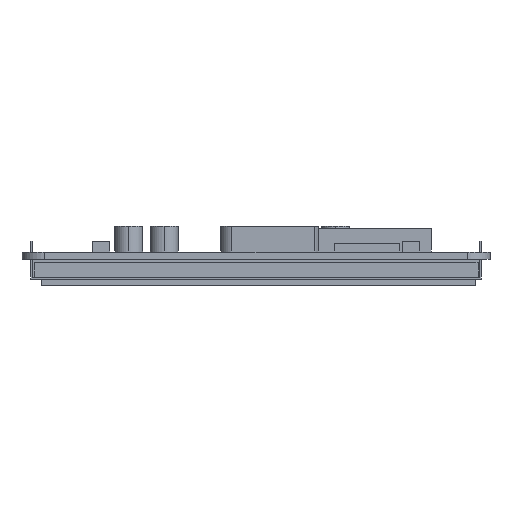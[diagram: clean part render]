
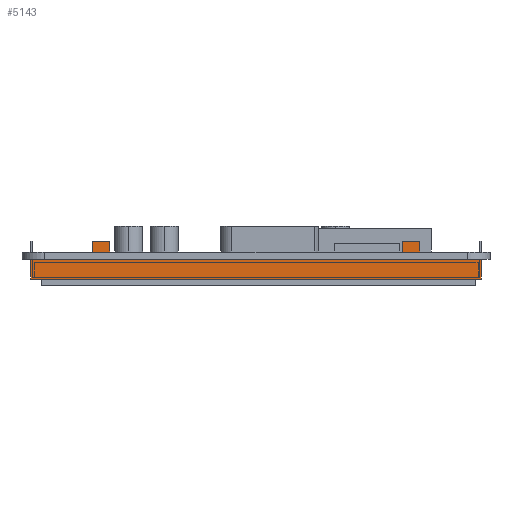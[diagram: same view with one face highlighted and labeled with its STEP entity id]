
A CAD part, front view. The second image highlights one B-rep face of the part: STEP entity #5143.
In plain terms, the highlighted planar face has unit normal (0, -1, 0).
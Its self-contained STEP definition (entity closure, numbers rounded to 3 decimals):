
#938=DIRECTION('',(-1.,0.,0.));
#939=VECTOR('',#938,2.534);
#940=CARTESIAN_POINT('',(37.465,-83.102,-1.6));
#941=LINE('',#940,#939);
#962=DIRECTION('',(-1.,0.,0.));
#963=VECTOR('',#962,0.546);
#964=CARTESIAN_POINT('',(32.931,-83.102,-1.6));
#965=LINE('',#964,#963);
#1244=DIRECTION('',(-1.,0.,0.));
#1245=VECTOR('',#1244,2.54);
#1246=CARTESIAN_POINT('',(-32.385,-83.102,-1.6));
#1247=LINE('',#1246,#1245);
#1268=DIRECTION('',(1.,0.,0.));
#1269=VECTOR('',#1268,0.54);
#1270=CARTESIAN_POINT('',(-37.465,-83.102,-1.6));
#1271=LINE('',#1270,#1269);
#1588=DIRECTION('',(1.,0.,0.));
#1589=VECTOR('',#1588,13.282);
#1590=CARTESIAN_POINT('',(-50.747,-83.102,-1.6));
#1591=LINE('',#1590,#1589);
#1592=DIRECTION('',(0.,0.,1.));
#1593=VECTOR('',#1592,4.);
#1594=CARTESIAN_POINT('',(-36.925,-83.102,-1.6));
#1595=LINE('',#1594,#1593);
#1596=DIRECTION('',(-1.,0.,0.));
#1597=VECTOR('',#1596,2.);
#1598=CARTESIAN_POINT('',(-32.925,-83.102,0.));
#1599=LINE('',#1598,#1597);
#1600=DIRECTION('',(0.,0.,-1.));
#1601=VECTOR('',#1600,1.6);
#1602=CARTESIAN_POINT('',(-34.925,-83.102,0.));
#1603=LINE('',#1602,#1601);
#1604=DIRECTION('',(1.,0.,0.));
#1605=VECTOR('',#1604,64.77);
#1606=CARTESIAN_POINT('',(-32.385,-83.102,-1.6));
#1607=LINE('',#1606,#1605);
#1608=DIRECTION('',(0.,0.,1.));
#1609=VECTOR('',#1608,4.);
#1610=CARTESIAN_POINT('',(32.931,-83.102,-1.6));
#1611=LINE('',#1610,#1609);
#1612=DIRECTION('',(-1.,0.,0.));
#1613=VECTOR('',#1612,2.);
#1614=CARTESIAN_POINT('',(36.931,-83.102,0.));
#1615=LINE('',#1614,#1613);
#1616=DIRECTION('',(0.,0.,-1.));
#1617=VECTOR('',#1616,1.6);
#1618=CARTESIAN_POINT('',(34.931,-83.102,0.));
#1619=LINE('',#1618,#1617);
#1620=DIRECTION('',(1.,0.,0.));
#1621=VECTOR('',#1620,13.288);
#1622=CARTESIAN_POINT('',(37.465,-83.102,-1.6));
#1623=LINE('',#1622,#1621);
#1624=DIRECTION('',(0.,0.,1.));
#1625=VECTOR('',#1624,4.5);
#1626=CARTESIAN_POINT('',(-50.747,-83.102,-6.1));
#1627=LINE('',#1626,#1625);
#1672=DIRECTION('',(1.,0.,0.));
#1673=VECTOR('',#1672,4.);
#1674=CARTESIAN_POINT('',(32.931,-83.102,2.4));
#1675=LINE('',#1674,#1673);
#1688=DIRECTION('',(1.,0.,0.));
#1689=VECTOR('',#1688,4.);
#1690=CARTESIAN_POINT('',(-36.925,-83.102,2.4));
#1691=LINE('',#1690,#1689);
#1828=DIRECTION('',(0.,0.,1.));
#1829=VECTOR('',#1828,2.4);
#1830=CARTESIAN_POINT('',(36.931,-83.102,0.));
#1831=LINE('',#1830,#1829);
#1840=DIRECTION('',(0.,0.,1.));
#1841=VECTOR('',#1840,2.4);
#1842=CARTESIAN_POINT('',(-32.925,-83.102,0.));
#1843=LINE('',#1842,#1841);
#1908=DIRECTION('',(0.,0.,1.));
#1909=VECTOR('',#1908,4.5);
#1910=CARTESIAN_POINT('',(50.753,-83.102,-6.1));
#1911=LINE('',#1910,#1909);
#1960=DIRECTION('',(1.,0.,0.));
#1961=VECTOR('',#1960,101.5);
#1962=CARTESIAN_POINT('',(-50.747,-83.102,-6.1));
#1963=LINE('',#1962,#1961);
#2574=CARTESIAN_POINT('',(-50.747,-83.102,-6.1));
#2575=VERTEX_POINT('',#2574);
#2576=CARTESIAN_POINT('',(50.753,-83.102,-6.1));
#2577=VERTEX_POINT('',#2576);
#2606=CARTESIAN_POINT('',(32.931,-83.102,2.4));
#2607=VERTEX_POINT('',#2606);
#2608=CARTESIAN_POINT('',(36.931,-83.102,2.4));
#2609=VERTEX_POINT('',#2608);
#2614=CARTESIAN_POINT('',(-36.925,-83.102,2.4));
#2615=VERTEX_POINT('',#2614);
#2616=CARTESIAN_POINT('',(-32.925,-83.102,2.4));
#2617=VERTEX_POINT('',#2616);
#2674=CARTESIAN_POINT('',(32.931,-83.102,-1.6));
#2676=VERTEX_POINT('',#2674);
#2678=CARTESIAN_POINT('',(-36.925,-83.102,-1.6));
#2680=VERTEX_POINT('',#2678);
#2730=CARTESIAN_POINT('',(-32.925,-83.102,0.));
#2731=CARTESIAN_POINT('',(-34.925,-83.102,0.));
#2732=VERTEX_POINT('',#2730);
#2733=VERTEX_POINT('',#2731);
#2734=CARTESIAN_POINT('',(-34.925,-83.102,-1.6));
#2735=VERTEX_POINT('',#2734);
#2736=CARTESIAN_POINT('',(36.931,-83.102,0.));
#2737=CARTESIAN_POINT('',(34.931,-83.102,0.));
#2738=VERTEX_POINT('',#2736);
#2739=VERTEX_POINT('',#2737);
#2740=CARTESIAN_POINT('',(34.931,-83.102,-1.6));
#2741=VERTEX_POINT('',#2740);
#3258=CARTESIAN_POINT('',(37.465,-83.102,-1.6));
#3260=VERTEX_POINT('',#3258);
#3262=CARTESIAN_POINT('',(32.385,-83.102,-1.6));
#3264=VERTEX_POINT('',#3262);
#3338=CARTESIAN_POINT('',(-32.385,-83.102,-1.6));
#3340=VERTEX_POINT('',#3338);
#3342=CARTESIAN_POINT('',(-37.465,-83.102,-1.6));
#3344=VERTEX_POINT('',#3342);
#3350=CARTESIAN_POINT('',(-50.747,-83.102,-1.6));
#3351=VERTEX_POINT('',#3350);
#3352=CARTESIAN_POINT('',(50.753,-83.102,-1.6));
#3353=VERTEX_POINT('',#3352);
#5104=CARTESIAN_POINT('',(-50.747,-83.102,-6.1));
#5105=DIRECTION('',(0.,-1.,0.));
#5106=DIRECTION('',(1.,0.,0.));
#5107=AXIS2_PLACEMENT_3D('',#5104,#5105,#5106);
#5108=PLANE('',#5107);
#5109=ORIENTED_EDGE('',*,*,#3702,.T.);
#5110=ORIENTED_EDGE('',*,*,#4596,.T.);
#5112=ORIENTED_EDGE('',*,*,#5111,.T.);
#5114=ORIENTED_EDGE('',*,*,#5113,.T.);
#5116=ORIENTED_EDGE('',*,*,#5115,.F.);
#5118=ORIENTED_EDGE('',*,*,#5117,.T.);
#5120=ORIENTED_EDGE('',*,*,#5119,.T.);
#5121=ORIENTED_EDGE('',*,*,#4569,.F.);
#5122=ORIENTED_EDGE('',*,*,#3694,.T.);
#5123=ORIENTED_EDGE('',*,*,#4163,.F.);
#5125=ORIENTED_EDGE('',*,*,#5124,.T.);
#5127=ORIENTED_EDGE('',*,*,#5126,.T.);
#5129=ORIENTED_EDGE('',*,*,#5128,.F.);
#5131=ORIENTED_EDGE('',*,*,#5130,.T.);
#5132=ORIENTED_EDGE('',*,*,#5088,.T.);
#5133=ORIENTED_EDGE('',*,*,#4136,.F.);
#5134=ORIENTED_EDGE('',*,*,#3686,.T.);
#5136=ORIENTED_EDGE('',*,*,#5135,.F.);
#5138=ORIENTED_EDGE('',*,*,#5137,.F.);
#5140=ORIENTED_EDGE('',*,*,#5139,.T.);
#5141=EDGE_LOOP('',(#5109,#5110,#5112,#5114,#5116,#5118,#5120,#5121,#5122,#5123,
#5125,#5127,#5129,#5131,#5132,#5133,#5134,#5136,#5138,#5140));
#5142=FACE_OUTER_BOUND('',#5141,.F.);
#3686=EDGE_CURVE('',#3260,#3353,#1623,.T.);
#3694=EDGE_CURVE('',#3340,#3264,#1607,.T.);
#3702=EDGE_CURVE('',#3351,#3344,#1591,.T.);
#4136=EDGE_CURVE('',#3260,#2741,#941,.T.);
#4163=EDGE_CURVE('',#2676,#3264,#965,.T.);
#4569=EDGE_CURVE('',#3340,#2735,#1247,.T.);
#4596=EDGE_CURVE('',#3344,#2680,#1271,.T.);
#5088=EDGE_CURVE('',#2739,#2741,#1619,.T.);
#5111=EDGE_CURVE('',#2680,#2615,#1595,.T.);
#5113=EDGE_CURVE('',#2615,#2617,#1691,.T.);
#5115=EDGE_CURVE('',#2732,#2617,#1843,.T.);
#5117=EDGE_CURVE('',#2732,#2733,#1599,.T.);
#5119=EDGE_CURVE('',#2733,#2735,#1603,.T.);
#5124=EDGE_CURVE('',#2676,#2607,#1611,.T.);
#5126=EDGE_CURVE('',#2607,#2609,#1675,.T.);
#5128=EDGE_CURVE('',#2738,#2609,#1831,.T.);
#5130=EDGE_CURVE('',#2738,#2739,#1615,.T.);
#5135=EDGE_CURVE('',#2577,#3353,#1911,.T.);
#5137=EDGE_CURVE('',#2575,#2577,#1963,.T.);
#5139=EDGE_CURVE('',#2575,#3351,#1627,.T.);
#5143=ADVANCED_FACE('',(#5142),#5108,.T.);
